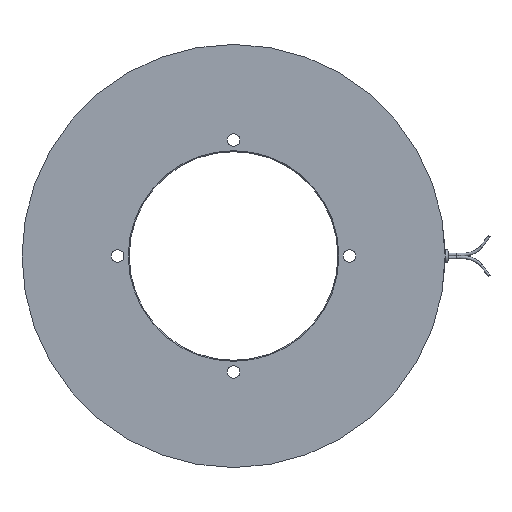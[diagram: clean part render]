
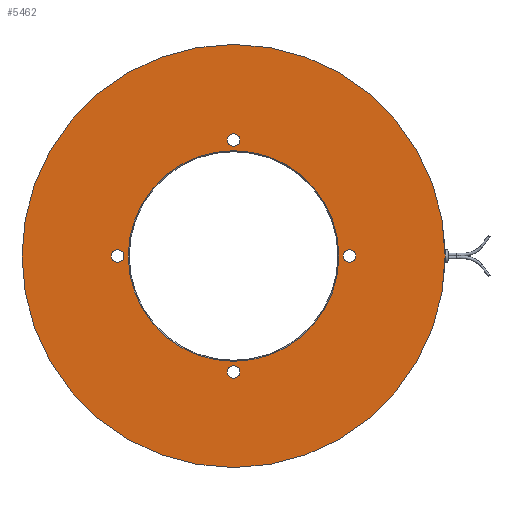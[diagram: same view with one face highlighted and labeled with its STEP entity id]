
A CAD part, left-side view. The second image highlights one B-rep face of the part: STEP entity #5462.
In plain terms, the highlighted planar face has unit normal (-1, 0, 0).
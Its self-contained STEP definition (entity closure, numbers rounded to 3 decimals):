
#100=FACE_BOUND('',#681,.T.);
#101=FACE_BOUND('',#682,.T.);
#102=FACE_BOUND('',#683,.T.);
#103=FACE_BOUND('',#684,.T.);
#104=FACE_BOUND('',#685,.T.);
#167=PLANE('',#6230);
#368=FACE_OUTER_BOUND('',#680,.T.);
#680=EDGE_LOOP('',(#4422,#4423));
#681=EDGE_LOOP('',(#4424,#4425));
#682=EDGE_LOOP('',(#4426,#4427));
#683=EDGE_LOOP('',(#4428,#4429));
#684=EDGE_LOOP('',(#4430,#4431));
#685=EDGE_LOOP('',(#4432));
#820=CIRCLE('',#5586,109.5);
#821=CIRCLE('',#5587,109.5);
#1290=CIRCLE('',#6231,3.25);
#1291=CIRCLE('',#6232,3.25);
#1292=CIRCLE('',#6233,3.25);
#1293=CIRCLE('',#6234,3.25);
#1294=CIRCLE('',#6235,3.25);
#1295=CIRCLE('',#6236,3.25);
#1296=CIRCLE('',#6237,3.25);
#1297=CIRCLE('',#6238,3.25);
#1298=CIRCLE('',#6239,54.5);
#1838=VERTEX_POINT('',#8692);
#1839=VERTEX_POINT('',#8693);
#2263=VERTEX_POINT('',#10150);
#2264=VERTEX_POINT('',#10151);
#2265=VERTEX_POINT('',#10154);
#2266=VERTEX_POINT('',#10155);
#2267=VERTEX_POINT('',#10158);
#2268=VERTEX_POINT('',#10159);
#2269=VERTEX_POINT('',#10162);
#2270=VERTEX_POINT('',#10163);
#2271=VERTEX_POINT('',#10166);
#2401=EDGE_CURVE('',#1838,#1839,#820,.T.);
#2402=EDGE_CURVE('',#1839,#1838,#821,.T.);
#3035=EDGE_CURVE('',#2263,#2264,#1290,.T.);
#3036=EDGE_CURVE('',#2264,#2263,#1291,.T.);
#3037=EDGE_CURVE('',#2265,#2266,#1292,.T.);
#3038=EDGE_CURVE('',#2266,#2265,#1293,.T.);
#3039=EDGE_CURVE('',#2267,#2268,#1294,.T.);
#3040=EDGE_CURVE('',#2268,#2267,#1295,.T.);
#3041=EDGE_CURVE('',#2269,#2270,#1296,.T.);
#3042=EDGE_CURVE('',#2270,#2269,#1297,.T.);
#3043=EDGE_CURVE('',#2271,#2271,#1298,.T.);
#4422=ORIENTED_EDGE('',*,*,#2401,.T.);
#4423=ORIENTED_EDGE('',*,*,#2402,.T.);
#4424=ORIENTED_EDGE('',*,*,#3035,.T.);
#4425=ORIENTED_EDGE('',*,*,#3036,.T.);
#4426=ORIENTED_EDGE('',*,*,#3037,.T.);
#4427=ORIENTED_EDGE('',*,*,#3038,.T.);
#4428=ORIENTED_EDGE('',*,*,#3039,.T.);
#4429=ORIENTED_EDGE('',*,*,#3040,.T.);
#4430=ORIENTED_EDGE('',*,*,#3041,.T.);
#4431=ORIENTED_EDGE('',*,*,#3042,.T.);
#4432=ORIENTED_EDGE('',*,*,#3043,.F.);
#5462=ADVANCED_FACE('',(#368,#100,#101,#102,#103,#104),#167,.T.);
#5586=AXIS2_PLACEMENT_3D('',#8694,#6490,#6491);
#5587=AXIS2_PLACEMENT_3D('',#8695,#6492,#6493);
#6230=AXIS2_PLACEMENT_3D('',#10149,#7922,#7923);
#6231=AXIS2_PLACEMENT_3D('',#10152,#7924,#7925);
#6232=AXIS2_PLACEMENT_3D('',#10153,#7926,#7927);
#6233=AXIS2_PLACEMENT_3D('',#10156,#7928,#7929);
#6234=AXIS2_PLACEMENT_3D('',#10157,#7930,#7931);
#6235=AXIS2_PLACEMENT_3D('',#10160,#7932,#7933);
#6236=AXIS2_PLACEMENT_3D('',#10161,#7934,#7935);
#6237=AXIS2_PLACEMENT_3D('',#10164,#7936,#7937);
#6238=AXIS2_PLACEMENT_3D('',#10165,#7938,#7939);
#6239=AXIS2_PLACEMENT_3D('',#10167,#7940,#7941);
#6490=DIRECTION('center_axis',(-1.,0.,0.));
#6491=DIRECTION('ref_axis',(0.,0.,
1.));
#6492=DIRECTION('center_axis',(-1.,0.,0.));
#6493=DIRECTION('ref_axis',(0.,0.,
1.));
#7922=DIRECTION('center_axis',(-1.,0.,0.));
#7923=DIRECTION('ref_axis',(0.,-1.,0.));
#7924=DIRECTION('center_axis',(1.,0.,0.));
#7925=DIRECTION('ref_axis',(0.,-1.,0.));
#7926=DIRECTION('center_axis',(1.,0.,0.));
#7927=DIRECTION('ref_axis',(0.,-1.,0.));
#7928=DIRECTION('center_axis',(1.,0.,0.));
#7929=DIRECTION('ref_axis',(0.,-1.,0.));
#7930=DIRECTION('center_axis',(1.,0.,0.));
#7931=DIRECTION('ref_axis',(0.,-1.,0.));
#7932=DIRECTION('center_axis',(1.,0.,0.));
#7933=DIRECTION('ref_axis',(0.,-1.,0.));
#7934=DIRECTION('center_axis',(1.,0.,0.));
#7935=DIRECTION('ref_axis',(0.,-1.,0.));
#7936=DIRECTION('center_axis',(1.,0.,0.));
#7937=DIRECTION('ref_axis',(0.,-1.,0.));
#7938=DIRECTION('center_axis',(1.,0.,0.));
#7939=DIRECTION('ref_axis',(0.,-1.,0.));
#7940=DIRECTION('center_axis',(-1.,0.,0.));
#7941=DIRECTION('ref_axis',(0.,0.,
-1.));
#8692=CARTESIAN_POINT('',(-18.,0.,109.5));
#8693=CARTESIAN_POINT('',(-18.,0.,-109.5));
#8694=CARTESIAN_POINT('Origin',(-18.,0.,0.));
#8695=CARTESIAN_POINT('Origin',(-18.,0.,0.));
#10149=CARTESIAN_POINT('Origin',(-18.,0.,81.75));
#10150=CARTESIAN_POINT('',(-18.,56.75,0.));
#10151=CARTESIAN_POINT('',(-18.,63.25,0.));
#10152=CARTESIAN_POINT('Origin',(-18.,60.,0.));
#10153=CARTESIAN_POINT('Origin',(-18.,60.,0.));
#10154=CARTESIAN_POINT('',(-18.,-63.25,0.));
#10155=CARTESIAN_POINT('',(-18.,-56.75,0.));
#10156=CARTESIAN_POINT('Origin',(-18.,-60.,0.));
#10157=CARTESIAN_POINT('Origin',(-18.,-60.,0.));
#10158=CARTESIAN_POINT('',(-18.,-3.25,60.));
#10159=CARTESIAN_POINT('',(-18.,3.25,60.));
#10160=CARTESIAN_POINT('Origin',(-18.,0.,60.));
#10161=CARTESIAN_POINT('Origin',(-18.,0.,60.));
#10162=CARTESIAN_POINT('',(-18.,-3.25,-60.));
#10163=CARTESIAN_POINT('',(-18.,3.25,-60.));
#10164=CARTESIAN_POINT('Origin',(-18.,0.,-60.));
#10165=CARTESIAN_POINT('Origin',(-18.,0.,-60.));
#10166=CARTESIAN_POINT('',(-18.,0.,54.5));
#10167=CARTESIAN_POINT('Origin',(-18.,0.,0.));
